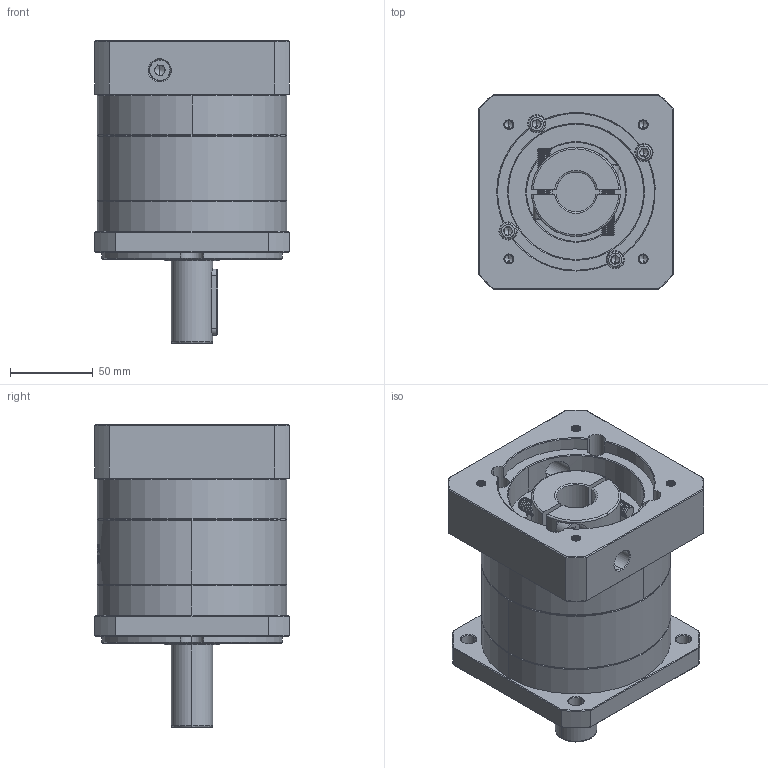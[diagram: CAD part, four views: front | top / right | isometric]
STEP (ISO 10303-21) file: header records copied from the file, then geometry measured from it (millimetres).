
FILE_DESCRIPTION (( 'STEP AP214' ), '1' );
FILE_NAME ('ZF120A-D25-L1-P2-24-95-115-M6.step', '2023-08-27T04:39:18', ( '' ), ( '' ), 'SwSTEP 2.0', 'SolidWorks 2016', '' );
FILE_SCHEMA (( 'AUTOMOTIVE_DESIGN' ));
Length unit declared in the file: millimetre
Products named in the file (1): ZF120A-D25-L1-P2-24-95-115-M6
Bounding box: 118 x 118 x 183.5 mm (x, y, z)
Volume: 1361444.9 mm3; surface area: 157619.9 mm2
Topology: 6 solids, 6 shells, 2237 faces, 5961 edges, 3825 vertices
Faces by surface type: plane 1034, bspline 439, cylinder 421, cone 343
Entity records: 122917 total; most frequent: CARTESIAN_POINT 48040, ORIENTED_EDGE 11862, DIRECTION 8618, EDGE_CURVE 5931, VERTEX_POINT 3825, LINE 3102, VECTOR 3102, AXIS2_PLACEMENT_3D 2758
